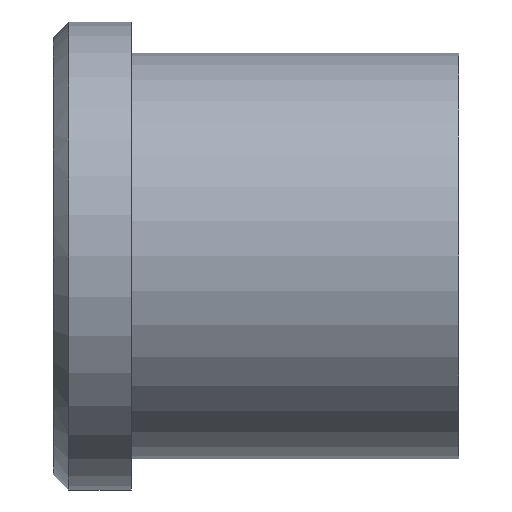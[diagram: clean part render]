
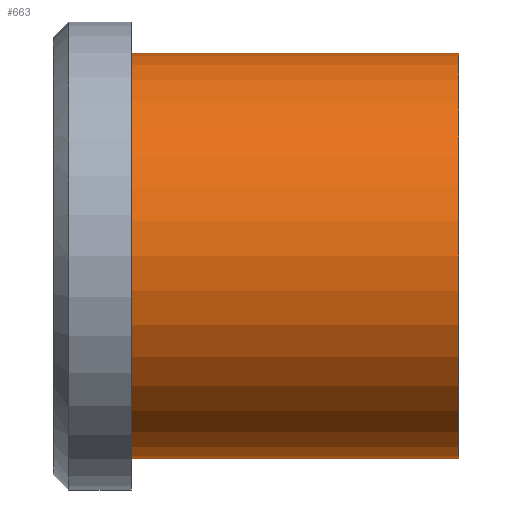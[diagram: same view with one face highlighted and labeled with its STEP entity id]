
A CAD part, front view. The second image highlights one B-rep face of the part: STEP entity #663.
In plain terms, the highlighted cylindrical face has radius 13 mm (diameter 26 mm), a partial arc.
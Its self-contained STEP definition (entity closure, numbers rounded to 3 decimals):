
#501=CARTESIAN_POINT('Vertex',(0.,0.,-13.)) ;
#506=CARTESIAN_POINT('Axis2P3D Location',(0.,0.,0.)) ;
#510=CARTESIAN_POINT('Vertex',(0.,-13.,0.)) ;
#513=CARTESIAN_POINT('Axis2P3D Location',(0.,0.,0.)) ;
#517=CARTESIAN_POINT('Vertex',(0.,0.,13.)) ;
#603=CARTESIAN_POINT('Line Origine',(21.,0.,13.)) ;
#607=CARTESIAN_POINT('Vertex',(21.,0.,13.)) ;
#621=CARTESIAN_POINT('Vertex',(21.,0.,-13.)) ;
#624=CARTESIAN_POINT('Line Origine',(21.,0.,-13.)) ;
#638=CARTESIAN_POINT('Axis2P3D Location',(21.,0.,0.)) ;
#643=CARTESIAN_POINT('Axis2P3D Location',(21.,0.,0.)) ;
#647=CARTESIAN_POINT('Vertex',(21.,-13.,0.)) ;
#650=CARTESIAN_POINT('Axis2P3D Location',(21.,0.,0.)) ;
#507=DIRECTION('Axis2P3D Direction',(1.,0.,-0.)) ;
#514=DIRECTION('Axis2P3D Direction',(1.,0.,-0.)) ;
#604=DIRECTION('Vector Direction',(-1.,0.,0.)) ;
#625=DIRECTION('Vector Direction',(-1.,0.,0.)) ;
#639=DIRECTION('Axis2P3D Direction',(-1.,-0.,-0.)) ;
#640=DIRECTION('Axis2P3D XDirection',(0.,0.,-1.)) ;
#644=DIRECTION('Axis2P3D Direction',(-1.,-0.,-0.)) ;
#651=DIRECTION('Axis2P3D Direction',(-1.,-0.,-0.)) ;
#508=AXIS2_PLACEMENT_3D('Circle Axis2P3D',#506,#507,$) ;
#515=AXIS2_PLACEMENT_3D('Circle Axis2P3D',#513,#514,$) ;
#641=AXIS2_PLACEMENT_3D('Cylinder Axis2P3D',#638,#639,#640) ;
#645=AXIS2_PLACEMENT_3D('Circle Axis2P3D',#643,#644,$) ;
#652=AXIS2_PLACEMENT_3D('Circle Axis2P3D',#650,#651,$) ;
#656=ORIENTED_EDGE('',*,*,#628,.T.) ;
#657=ORIENTED_EDGE('',*,*,#649,.F.) ;
#658=ORIENTED_EDGE('',*,*,#654,.F.) ;
#659=ORIENTED_EDGE('',*,*,#609,.T.) ;
#660=ORIENTED_EDGE('',*,*,#519,.T.) ;
#661=ORIENTED_EDGE('',*,*,#512,.T.) ;
#605=VECTOR('Line Direction',#604,1.) ;
#626=VECTOR('Line Direction',#625,1.) ;
#663=ADVANCED_FACE('353-18X26',(#662),#642,.T.) ;
#509=CIRCLE('generated circle',#508,13.) ;
#516=CIRCLE('generated circle',#515,13.) ;
#646=CIRCLE('generated circle',#645,13.) ;
#653=CIRCLE('generated circle',#652,13.) ;
#642=CYLINDRICAL_SURFACE('generated cylinder',#641,13.) ;
#512=EDGE_CURVE('',#511,#502,#509,.T.) ;
#519=EDGE_CURVE('',#518,#511,#516,.T.) ;
#609=EDGE_CURVE('',#608,#518,#606,.T.) ;
#628=EDGE_CURVE('',#502,#622,#627,.F.) ;
#649=EDGE_CURVE('',#648,#622,#646,.F.) ;
#654=EDGE_CURVE('',#608,#648,#653,.F.) ;
#655=EDGE_LOOP('',(#656,#657,#658,#659,#660,#661)) ;
#662=FACE_OUTER_BOUND('',#655,.T.) ;
#606=LINE('Line',#603,#605) ;
#627=LINE('Line',#624,#626) ;
#502=VERTEX_POINT('',#501) ;
#511=VERTEX_POINT('',#510) ;
#518=VERTEX_POINT('',#517) ;
#608=VERTEX_POINT('',#607) ;
#622=VERTEX_POINT('',#621) ;
#648=VERTEX_POINT('',#647) ;
